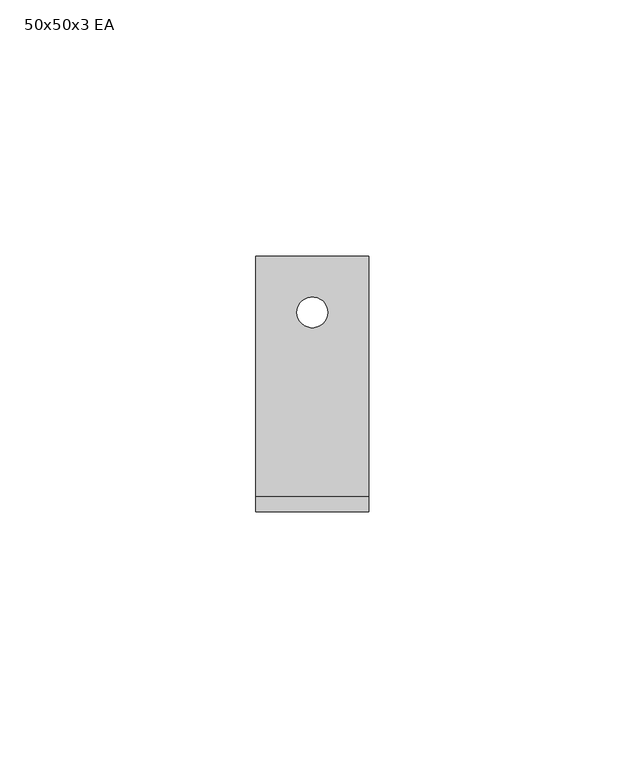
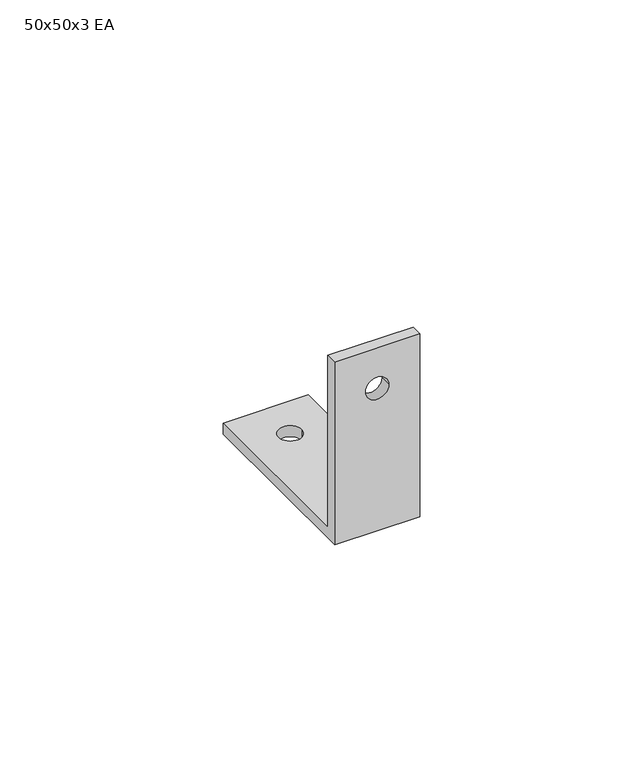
"""IFC4 building model written with IfcOpenShell, lengths in millimetres: furniture geometry, X_Partition-Angle-Duracube-Shower Seat : 50x50x3 EA."""

from ifc_helpers import new_model, si_unit, frame, origin, place, context, project, spatial, polyline, circle_curve, source, transform, mapped, element, save
from ifc_brep_helpers import plane_surface, revolved_surface, advanced_brep


def furniture_50x50x3_ea_0fb80352(model_context):
    return source(origin(), model_context, "Body", "AdvancedBrep", [
        advanced_brep(
        [(11.0, -22.0, 3.0), (11.0, -22.0, 50.0), (11.0, -25.0, 50.0), (11.0, -25.0, 0.0), (11.0, 25.0, 0.0), (11.0, 25.0, 3.0), (-11.0, -22.0, 3.0), (-11.0, 25.0, 3.0), (-11.0, 25.0, 0.0), (-11.0, -25.0, 0.0), (-11.0, -25.0, 50.0), (-11.0, -22.0, 50.0), (3.0, 14.0, 3.0), (-3.0, 14.0, 3.0), (-3.0, 14.0, 0.0), (3.0, 14.0, 0.0), (-3.0, -25.0, 39.0), (3.0, -25.0, 39.0), (3.0, -22.0, 39.0), (-3.0, -22.0, 39.0)],
        [
            (0, 1),
            (1, 2),
            (2, 3),
            (3, 4),
            (4, 5),
            (5, 0),
            (6, 7),
            (7, 8),
            (8, 9),
            (9, 10),
            (10, 11),
            (11, 6),
            (5, 7),
            (6, 0),
            (12, 13, circle_curve(frame((0.0, 14.0, 3.0), z_axis=(0.0, 0.0, -1.0), x_axis=(1.0, 0.0, 0.0)), 3.0)),
            (13, 12, circle_curve(frame((0.0, 14.0, 3.0), z_axis=(0.0, 0.0, -1.0), x_axis=(1.0, 0.0, 0.0)), 3.0)),
            (4, 8),
            (3, 9),
            (14, 15, circle_curve(frame((0.0, 14.0, 0.0), z_axis=(0.0, 0.0, 1.0), x_axis=(1.0, 0.0, 0.0)), 3.0)),
            (15, 14, circle_curve(frame((0.0, 14.0, 0.0), z_axis=(0.0, 0.0, 1.0), x_axis=(1.0, 0.0, 0.0)), 3.0)),
            (2, 10),
            (16, 17, circle_curve(frame((0.0, -25.0, 39.0), z_axis=(0.0, 1.0, 0.0), x_axis=(1.0, 0.0, 0.0)), 3.0)),
            (17, 16, circle_curve(frame((0.0, -25.0, 39.0), z_axis=(0.0, 1.0, 0.0), x_axis=(1.0, 0.0, 0.0)), 3.0)),
            (1, 11),
            (18, 19, circle_curve(frame((0.0, -22.0, 39.0), z_axis=(0.0, -1.0, 0.0), x_axis=(1.0, 0.0, 0.0)), 3.0)),
            (19, 18, circle_curve(frame((0.0, -22.0, 39.0), z_axis=(0.0, -1.0, 0.0), x_axis=(1.0, 0.0, 0.0)), 3.0)),
            (13, 14),
            (15, 12),
            (19, 16),
            (17, 18),
        ],
        [
            plane_surface(frame((11.0, 25.0, 3.0), z_axis=(1.0, 0.0, 0.0), x_axis=(0.0, 1.0, 0.0))),
            plane_surface(frame((-11.0, 25.0, 3.0), z_axis=(-1.0, 0.0, 0.0), x_axis=(0.0, -1.0, 0.0))),
            plane_surface(frame((11.0, -22.0, 3.0), z_axis=(0.0, 0.0, 1.0), x_axis=(-1.0, 0.0, 0.0))),
            plane_surface(frame((11.0, 25.0, 3.0), z_axis=(0.0, 1.0, 0.0), x_axis=(-1.0, 0.0, 0.0))),
            plane_surface(frame((11.0, 25.0, 0.0), z_axis=(0.0, 0.0, -1.0), x_axis=(-1.0, 0.0, 0.0))),
            plane_surface(frame((11.0, -25.0, 0.0), z_axis=(0.0, -1.0, 0.0), x_axis=(-1.0, 0.0, 0.0))),
            plane_surface(frame((11.0, -25.0, 50.0), z_axis=(0.0, 0.0, 1.0), x_axis=(-1.0, 0.0, 0.0))),
            plane_surface(frame((11.0, -22.0, 50.0), z_axis=(0.0, 1.0, 0.0), x_axis=(-1.0, 0.0, 0.0))),
            revolved_surface(polyline([(3.0, 14.0, 3.0), (3.0, 14.0, 0.0)]), (0.0, 14.0, 0.0), (0.0, 0.0, 1.0)),
            revolved_surface(polyline([(3.0, -22.0, 39.0), (3.0, -25.0, 39.0)]), (0.0, -25.0, 39.0), (0.0, 1.0, 0.0)),
        ],
        [
            (0, [[1, 2, 3, 4, 5, 6]]),
            (1, [[7, 8, 9, 10, 11, 12]]),
            (2, [[13, -7, 14, -6], [15, 16]]),
            (3, [[17, -8, -13, -5]]),
            (4, [[18, -9, -17, -4], [19, 20]]),
            (5, [[21, -10, -18, -3], [22, 23]]),
            (6, [[24, -11, -21, -2]]),
            (7, [[-14, -12, -24, -1], [25, 26]]),
            (8, [[-16, 27, -20, 28]]),
            (8, [[-19, -27, -15, -28]]),
            (9, [[-26, 29, -23, 30]]),
            (9, [[-22, -29, -25, -30]]),
        ],
    ),
    ])


if __name__ == "__main__":
    model = new_model("IFC4")
    model_context = context("Model", 3, world=origin())
    ifc_project = project(units=[si_unit("LENGTHUNIT", "METRE", prefix="MILLI")], contexts=[model_context])
    site = spatial("IfcSite", under=ifc_project)
    building = spatial("IfcBuilding", under=site)
    placement = place(None, origin())
    furniture_50x50x3_ea_shape = furniture_50x50x3_ea_0fb80352(model_context)
    element("IfcFurniture", 1, ObjectType="X_Partition-Angle-Duracube-Shower Seat : 50x50x3 EA", at=placement, inside=building, context=model_context, shape_type="MappedRepresentation", body=[
        mapped(furniture_50x50x3_ea_shape, transform((0.0, 0.0, 0.0), x_axis=(1.0, 0.0, 0.0), y_axis=(0.0, 1.0, 0.0), z_axis=(0.0, 0.0, 1.0))),
    ])
    save(model, "model.ifc")
